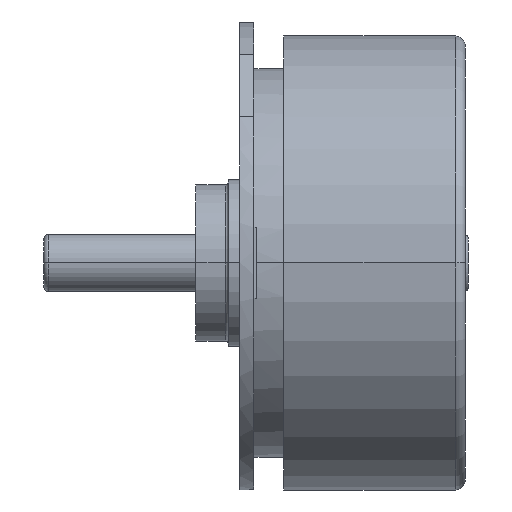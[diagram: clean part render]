
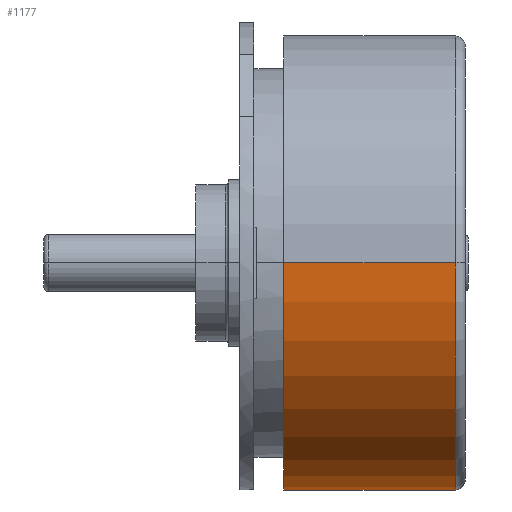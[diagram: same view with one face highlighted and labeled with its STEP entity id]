
A CAD part, front view. The second image highlights one B-rep face of the part: STEP entity #1177.
In plain terms, the highlighted cylindrical face has radius 16 mm (diameter 32 mm), a partial arc.
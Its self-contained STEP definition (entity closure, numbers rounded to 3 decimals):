
#119=DIRECTION('',(-1.,0.,0.));
#120=VECTOR('',#119,12.1);
#121=CARTESIAN_POINT('',(11.1,16.,0.));
#122=LINE('',#121,#120);
#126=DIRECTION('',(-1.,0.,0.));
#127=VECTOR('',#126,12.1);
#128=CARTESIAN_POINT('',(11.1,-16.,0.));
#129=LINE('',#128,#127);
#133=CARTESIAN_POINT('',(11.1,0.,0.));
#134=DIRECTION('',(-1.,0.,0.));
#135=DIRECTION('',(0.,1.,0.));
#136=AXIS2_PLACEMENT_3D('',#133,#134,#135);
#149=CARTESIAN_POINT('',(-1.,0.,0.));
#150=DIRECTION('',(-1.,0.,0.));
#151=DIRECTION('',(0.,1.,0.));
#152=AXIS2_PLACEMENT_3D('',#149,#150,#151);
#968=CARTESIAN_POINT('',(11.1,16.,0.));
#970=VERTEX_POINT('',#968);
#971=CARTESIAN_POINT('',(-1.,16.,0.));
#972=VERTEX_POINT('',#971);
#974=CARTESIAN_POINT('',(11.1,-16.,0.));
#976=VERTEX_POINT('',#974);
#977=CARTESIAN_POINT('',(-1.,-16.,0.));
#978=VERTEX_POINT('',#977);
#1163=CARTESIAN_POINT('',(-45.992,0.,0.));
#1164=DIRECTION('',(1.,0.,0.));
#1165=DIRECTION('',(0.,-1.,0.));
#1166=AXIS2_PLACEMENT_3D('',#1163,#1164,#1165);
#1167=CYLINDRICAL_SURFACE('',#1166,16.);
#1169=ORIENTED_EDGE('',*,*,#1168,.T.);
#1171=ORIENTED_EDGE('',*,*,#1170,.T.);
#1173=ORIENTED_EDGE('',*,*,#1172,.F.);
#1174=ORIENTED_EDGE('',*,*,#1156,.F.);
#1175=EDGE_LOOP('',(#1169,#1171,#1173,#1174));
#1176=FACE_OUTER_BOUND('',#1175,.F.);
#1177=ADVANCED_FACE('',(#1176),#1167,.T.);
#137=CIRCLE('',#136,16.);
#153=CIRCLE('',#152,16.);
#1156=EDGE_CURVE('',#970,#976,#137,.T.);
#1168=EDGE_CURVE('',#970,#972,#122,.T.);
#1170=EDGE_CURVE('',#972,#978,#153,.T.);
#1172=EDGE_CURVE('',#976,#978,#129,.T.);
